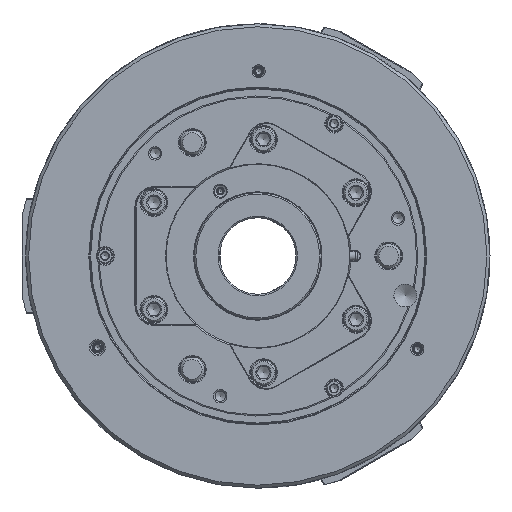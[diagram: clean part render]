
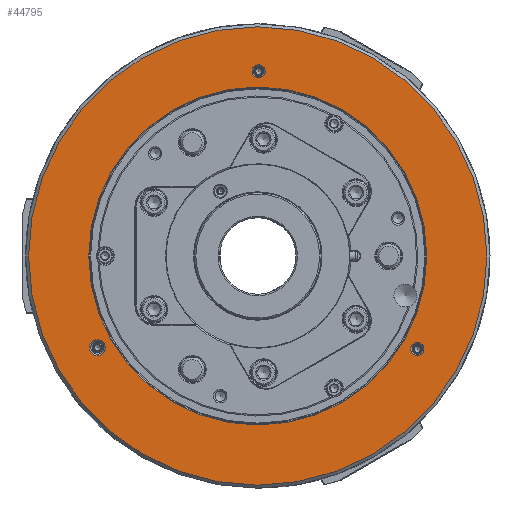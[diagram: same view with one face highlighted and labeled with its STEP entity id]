
A CAD part, left-side view. The second image highlights one B-rep face of the part: STEP entity #44795.
In plain terms, the highlighted planar face has unit normal (-1, 0, 0).
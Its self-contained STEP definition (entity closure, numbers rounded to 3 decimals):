
#4557 = DIRECTION ( 'NONE',  ( 1., 0., 0. ) ) ;
#4906 = CIRCLE ( 'NONE', #9673, 4.3 ) ;
#6933 = CIRCLE ( 'NONE', #87863, 4.3 ) ;
#7319 = VERTEX_POINT ( 'NONE', #90354 ) ;
#8053 = CARTESIAN_POINT ( 'NONE',  ( -138., -104.462, -56.633 ) ) ;
#9673 = AXIS2_PLACEMENT_3D ( 'NONE', #31451, #40899, #70731 ) ;
#11598 = EDGE_CURVE ( 'NONE', #57590, #57590, #97665, .T. ) ;
#11608 = EDGE_LOOP ( 'NONE', ( #61225 ) ) ;
#12507 = DIRECTION ( 'NONE',  ( 0., 0., -1. ) ) ;
#15228 = VERTEX_POINT ( 'NONE', #89873 ) ;
#16499 = EDGE_LOOP ( 'NONE', ( #28629 ) ) ;
#17322 = ORIENTED_EDGE ( 'NONE', *, *, #22110, .F. ) ;
#18182 = EDGE_LOOP ( 'NONE', ( #17322 ) ) ;
#21562 = EDGE_CURVE ( 'NONE', #15228, #15228, #24101, .T. ) ;
#22110 = EDGE_CURVE ( 'NONE', #7319, #7319, #4906, .T. ) ;
#22121 = CARTESIAN_POINT ( 'NONE',  ( -138., -150., 0. ) ) ;
#22310 = ORIENTED_EDGE ( 'NONE', *, *, #93394, .F. ) ;
#23876 = AXIS2_PLACEMENT_3D ( 'NONE', #45837, #52815, #83144 ) ;
#24101 = CIRCLE ( 'NONE', #23876, 110.6 ) ;
#27659 = FACE_OUTER_BOUND ( 'NONE', #16499, .T. ) ;
#28629 = ORIENTED_EDGE ( 'NONE', *, *, #11598, .F. ) ;
#31451 = CARTESIAN_POINT ( 'NONE',  ( -138., -0.538, 120.933 ) ) ;
#34132 = EDGE_CURVE ( 'NONE', #62500, #62500, #85903, .T. ) ;
#34682 = CARTESIAN_POINT ( 'NONE',  ( -138., 0., -150. ) ) ;
#40855 = ORIENTED_EDGE ( 'NONE', *, *, #34132, .T. ) ;
#40899 = DIRECTION ( 'NONE',  ( -1., 0., 0. ) ) ;
#43065 = PLANE ( 'NONE',  #67940 ) ;
#43914 = EDGE_LOOP ( 'NONE', ( #40855 ) ) ;
#44592 = DIRECTION ( 'NONE',  ( 0., 0., 1. ) ) ;
#44795 = ADVANCED_FACE ( 'NONE', ( #57506, #87836, #80363, #27659, #58010 ), #43065, .F. ) ;
#45837 = CARTESIAN_POINT ( 'NONE',  ( -138., 0., 0. ) ) ;
#50323 = CARTESIAN_POINT ( 'NONE',  ( -138., 0., 0. ) ) ;
#51666 = AXIS2_PLACEMENT_3D ( 'NONE', #50323, #73156, #78677 ) ;
#52815 = DIRECTION ( 'NONE',  ( 1., 0., 0. ) ) ;
#57506 = FACE_BOUND ( 'NONE', #18182, .T. ) ;
#57590 = VERTEX_POINT ( 'NONE', #34682 ) ;
#57808 = CARTESIAN_POINT ( 'NONE',  ( -138., 105., -60. ) ) ;
#58010 = FACE_BOUND ( 'NONE', #11608, .T. ) ;
#59534 = CARTESIAN_POINT ( 'NONE',  ( -138., -104.462, -60.933 ) ) ;
#59937 = EDGE_LOOP ( 'NONE', ( #22310 ) ) ;
#60781 = VERTEX_POINT ( 'NONE', #8053 ) ;
#61225 = ORIENTED_EDGE ( 'NONE', *, *, #21562, .T. ) ;
#62500 = VERTEX_POINT ( 'NONE', #68962 ) ;
#63704 = AXIS2_PLACEMENT_3D ( 'NONE', #57808, #4557, #12507 ) ;
#67413 = DIRECTION ( 'NONE',  ( 1., 0., 0. ) ) ;
#67940 = AXIS2_PLACEMENT_3D ( 'NONE', #22121, #67413, #82812 ) ;
#68962 = CARTESIAN_POINT ( 'NONE',  ( -138., 105., -65.3 ) ) ;
#70731 = DIRECTION ( 'NONE',  ( 0., 0., 1. ) ) ;
#73156 = DIRECTION ( 'NONE',  ( 1., 0., 0. ) ) ;
#78677 = DIRECTION ( 'NONE',  ( 0., 0., -1. ) ) ;
#80363 = FACE_BOUND ( 'NONE', #43914, .T. ) ;
#82373 = DIRECTION ( 'NONE',  ( -1., 0., 0. ) ) ;
#82812 = DIRECTION ( 'NONE',  ( 0., 0., -1. ) ) ;
#83144 = DIRECTION ( 'NONE',  ( 0., 0., -1. ) ) ;
#85903 = CIRCLE ( 'NONE', #63704, 5.3 ) ;
#87836 = FACE_BOUND ( 'NONE', #59937, .T. ) ;
#87863 = AXIS2_PLACEMENT_3D ( 'NONE', #59534, #82373, #44592 ) ;
#89873 = CARTESIAN_POINT ( 'NONE',  ( -138., 0., -110.6 ) ) ;
#90354 = CARTESIAN_POINT ( 'NONE',  ( -138., -0.538, 125.233 ) ) ;
#93394 = EDGE_CURVE ( 'NONE', #60781, #60781, #6933, .T. ) ;
#97665 = CIRCLE ( 'NONE', #51666, 150. ) ;
